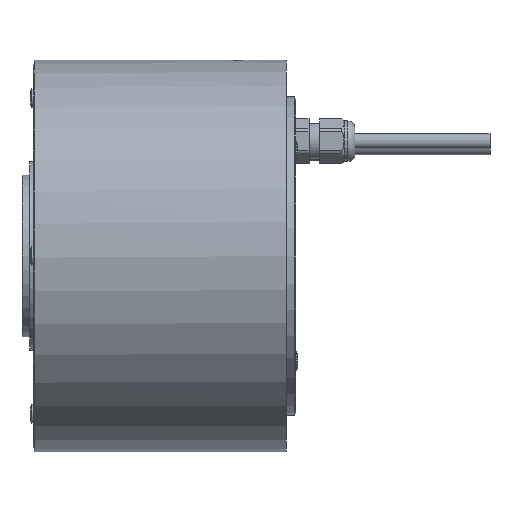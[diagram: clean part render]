
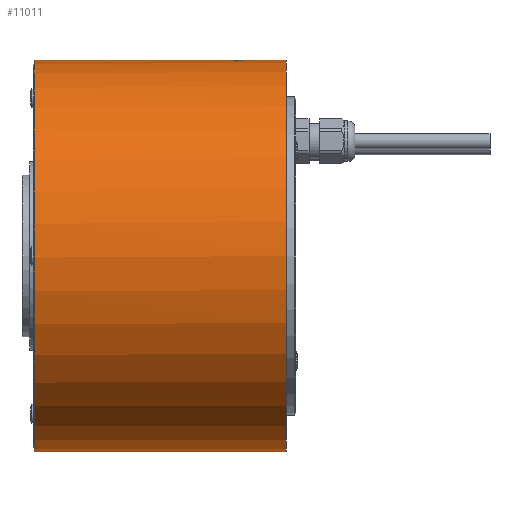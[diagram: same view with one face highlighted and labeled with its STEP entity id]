
A CAD part, left-side view. The second image highlights one B-rep face of the part: STEP entity #11011.
In plain terms, the highlighted cylindrical face has radius 72.5 mm (diameter 145 mm), a partial arc.
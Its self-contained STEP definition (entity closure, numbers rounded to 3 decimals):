
#282 = ORIENTED_EDGE ( 'NONE', *, *, #1836, .F. ) ;
#307 = CARTESIAN_POINT ( 'NONE',  ( -1.25, 0., 72.489 ) ) ;
#427 = CARTESIAN_POINT ( 'NONE',  ( 0., 0., -72.5 ) ) ;
#831 = CARTESIAN_POINT ( 'NONE',  ( -0.222, -71.8, 72.5 ) ) ;
#839 = CARTESIAN_POINT ( 'NONE',  ( -3.4, -75.424, 72.42 ) ) ;
#899 = CARTESIAN_POINT ( 'NONE',  ( 0., -0.2, 0. ) ) ;
#1114 = FACE_OUTER_BOUND ( 'NONE', #15800, .T. ) ;
#1348 = CARTESIAN_POINT ( 'NONE',  ( -1.505, -72.143, 72.485 ) ) ;
#1573 = CARTESIAN_POINT ( 'NONE',  ( -2.247, -72.638, 72.465 ) ) ;
#1836 = EDGE_CURVE ( 'NONE', #13978, #2489, #5217, .T. ) ;
#2063 = CARTESIAN_POINT ( 'NONE',  ( 0., -71.8, 72.5 ) ) ;
#2245 = CARTESIAN_POINT ( 'NONE',  ( -2.705, -77.272, 72.45 ) ) ;
#2489 = VERTEX_POINT ( 'NONE', #3333 ) ;
#2883 = DIRECTION ( 'NONE',  ( 0., 1., 0. ) ) ;
#2902 = ORIENTED_EDGE ( 'NONE', *, *, #19948, .T. ) ;
#2924 = CIRCLE ( 'NONE', #15000, 72.5 ) ;
#3090 = CARTESIAN_POINT ( 'NONE',  ( 0., -0.2, 72.5 ) ) ;
#3182 = CARTESIAN_POINT ( 'NONE',  ( -3.378, -74.755, 72.421 ) ) ;
#3333 = CARTESIAN_POINT ( 'NONE',  ( -3.4, -75.2, 72.42 ) ) ;
#3773 = EDGE_CURVE ( 'NONE', #12426, #15211, #10782, .T. ) ;
#4180 = CARTESIAN_POINT ( 'NONE',  ( -1.508, -78.255, 72.485 ) ) ;
#4237 = DIRECTION ( 'NONE',  ( 0., 0., 1. ) ) ;
#4275 = DIRECTION ( 'NONE',  ( 0., 0., -1. ) ) ;
#4809 = CARTESIAN_POINT ( 'NONE',  ( -1.703, -72.249, 72.48 ) ) ;
#5217 = B_SPLINE_CURVE_WITH_KNOTS ( 'NONE', 3,
 ( #15620, #831, #20578, #12372, #21098, #1348, #4809, #19703, #1573, #13121, #16367, #9776, #19817, #8175, #14855, #3182, #11406, #17982 ),
 .UNSPECIFIED., .F., .F.,
 ( 4, 2, 2, 2, 2, 2, 2, 2, 4 ),
 ( 0.011, 0.011, 0.012, 0.013, 0.013, 0.014, 0.015, 0.015, 0.016 ),
 .UNSPECIFIED. ) ;
#5345 = CIRCLE ( 'NONE', #16036, 72.5 ) ;
#5803 = CARTESIAN_POINT ( 'NONE',  ( -3.056, -76.707, 72.436 ) ) ;
#5845 = CARTESIAN_POINT ( 'NONE',  ( 0., -96.2, 72.5 ) ) ;
#6622 = DIRECTION ( 'NONE',  ( 0., 0., 1. ) ) ;
#7215 = CARTESIAN_POINT ( 'NONE',  ( 0., -78.6, 72.5 ) ) ;
#7435 = CARTESIAN_POINT ( 'NONE',  ( -3.378, -75.646, 72.421 ) ) ;
#7724 = CYLINDRICAL_SURFACE ( 'NONE', #10102, 72.5 ) ;
#7755 = VECTOR ( 'NONE', #7810, 1000. ) ;
#7766 = ORIENTED_EDGE ( 'NONE', *, *, #17981, .F. ) ;
#7810 = DIRECTION ( 'NONE',  ( 0., 1., 0. ) ) ;
#8011 = CARTESIAN_POINT ( 'NONE',  ( 0., -96.2, -72.5 ) ) ;
#8035 = DIRECTION ( 'NONE',  ( 0., 0., 1. ) ) ;
#8175 = CARTESIAN_POINT ( 'NONE',  ( -3.226, -74.104, 72.428 ) ) ;
#8345 = DIRECTION ( 'NONE',  ( 0., 1., 0. ) ) ;
#8407 = VECTOR ( 'NONE', #13956, 1000. ) ;
#8569 = CARTESIAN_POINT ( 'NONE',  ( -1.25, -0.2, 72.489 ) ) ;
#8839 = CARTESIAN_POINT ( 'NONE',  ( -2.248, -77.76, 72.465 ) ) ;
#8881 = LINE ( 'NONE', #5845, #8407 ) ;
#9636 = CARTESIAN_POINT ( 'NONE',  ( 0., -96.2, 0. ) ) ;
#9676 = ORIENTED_EDGE ( 'NONE', *, *, #14690, .F. ) ;
#9776 = CARTESIAN_POINT ( 'NONE',  ( -2.951, -73.497, 72.44 ) ) ;
#10102 = AXIS2_PLACEMENT_3D ( 'NONE', #9636, #16335, #8035 ) ;
#10153 = VECTOR ( 'NONE', #10991, 1000. ) ;
#10248 = CARTESIAN_POINT ( 'NONE',  ( 0., -78.6, 72.5 ) ) ;
#10695 = VERTEX_POINT ( 'NONE', #17985 ) ;
#10769 = CARTESIAN_POINT ( 'NONE',  ( -0.895, -78.51, 72.496 ) ) ;
#10782 = LINE ( 'NONE', #17573, #19775 ) ;
#10991 = DIRECTION ( 'NONE',  ( 0., 1., 0. ) ) ;
#11011 = ADVANCED_FACE ( 'NONE', ( #1114 ), #7724, .T. ) ;
#11406 = CARTESIAN_POINT ( 'NONE',  ( -3.4, -74.976, 72.42 ) ) ;
#12372 = CARTESIAN_POINT ( 'NONE',  ( -0.881, -71.909, 72.495 ) ) ;
#12378 = CARTESIAN_POINT ( 'NONE',  ( -2.951, -76.902, 72.44 ) ) ;
#12426 = VERTEX_POINT ( 'NONE', #8569 ) ;
#12444 = EDGE_CURVE ( 'NONE', #20218, #15211, #5345, .T. ) ;
#13121 = CARTESIAN_POINT ( 'NONE',  ( -2.56, -72.952, 72.455 ) ) ;
#13167 = VERTEX_POINT ( 'NONE', #10248 ) ;
#13956 = DIRECTION ( 'NONE',  ( 0., 1., 0. ) ) ;
#13978 = VERTEX_POINT ( 'NONE', #2063 ) ;
#13991 = CIRCLE ( 'NONE', #16748, 72.5 ) ;
#14017 = CARTESIAN_POINT ( 'NONE',  ( -3.292, -76.08, 72.425 ) ) ;
#14268 = EDGE_CURVE ( 'NONE', #2489, #13167, #17717, .T. ) ;
#14347 = CARTESIAN_POINT ( 'NONE',  ( 0., -96.2, 72.5 ) ) ;
#14368 = ORIENTED_EDGE ( 'NONE', *, *, #12444, .F. ) ;
#14442 = LINE ( 'NONE', #14347, #10153 ) ;
#14690 = EDGE_CURVE ( 'NONE', #12426, #16522, #2924, .T. ) ;
#14831 = CARTESIAN_POINT ( 'NONE',  ( 0., 0., 0. ) ) ;
#14855 = CARTESIAN_POINT ( 'NONE',  ( -3.292, -74.32, 72.425 ) ) ;
#15000 = AXIS2_PLACEMENT_3D ( 'NONE', #899, #19014, #4237 ) ;
#15211 = VERTEX_POINT ( 'NONE', #307 ) ;
#15422 = CARTESIAN_POINT ( 'NONE',  ( -1.706, -78.149, 72.48 ) ) ;
#15554 = EDGE_CURVE ( 'NONE', #13978, #16522, #14442, .T. ) ;
#15620 = CARTESIAN_POINT ( 'NONE',  ( 0., -71.8, 72.5 ) ) ;
#15741 = CARTESIAN_POINT ( 'NONE',  ( -0.449, -78.6, 72.5 ) ) ;
#15800 = EDGE_LOOP ( 'NONE', ( #16428, #7766, #2902, #19353, #282, #21301, #9676, #18830, #14368 ) ) ;
#16036 = AXIS2_PLACEMENT_3D ( 'NONE', #14831, #8345, #6622 ) ;
#16335 = DIRECTION ( 'NONE',  ( 0., 1., 0. ) ) ;
#16367 = CARTESIAN_POINT ( 'NONE',  ( -2.704, -73.127, 72.45 ) ) ;
#16428 = ORIENTED_EDGE ( 'NONE', *, *, #17066, .F. ) ;
#16522 = VERTEX_POINT ( 'NONE', #3090 ) ;
#16748 = AXIS2_PLACEMENT_3D ( 'NONE', #17128, #19051, #4275 ) ;
#16779 = VERTEX_POINT ( 'NONE', #20455 ) ;
#17038 = CARTESIAN_POINT ( 'NONE',  ( -3.4, -75.2, 72.42 ) ) ;
#17066 = EDGE_CURVE ( 'NONE', #10695, #20218, #21276, .T. ) ;
#17128 = CARTESIAN_POINT ( 'NONE',  ( 0., -93.2, 0. ) ) ;
#17573 = CARTESIAN_POINT ( 'NONE',  ( -1.25, -0.2, 72.489 ) ) ;
#17717 = B_SPLINE_CURVE_WITH_KNOTS ( 'NONE', 3,
 ( #17038, #839, #7435, #14017, #20585, #5803, #12378, #2245, #18965, #8839, #20362, #15422, #4180, #10769, #15741, #7215 ),
 .UNSPECIFIED., .F., .F.,
 ( 4, 2, 2, 2, 2, 2, 2, 4 ),
 ( 0.016, 0.017, 0.017, 0.018, 0.019, 0.019, 0.02, 0.021 ),
 .UNSPECIFIED. ) ;
#17981 = EDGE_CURVE ( 'NONE', #16779, #10695, #13991, .T. ) ;
#17982 = CARTESIAN_POINT ( 'NONE',  ( -3.4, -75.2, 72.42 ) ) ;
#17985 = CARTESIAN_POINT ( 'NONE',  ( 0., -93.2, -72.5 ) ) ;
#18830 = ORIENTED_EDGE ( 'NONE', *, *, #3773, .T. ) ;
#18965 = CARTESIAN_POINT ( 'NONE',  ( -2.562, -77.447, 72.455 ) ) ;
#19014 = DIRECTION ( 'NONE',  ( 0., 1., 0. ) ) ;
#19051 = DIRECTION ( 'NONE',  ( 0., -1., 0. ) ) ;
#19353 = ORIENTED_EDGE ( 'NONE', *, *, #14268, .F. ) ;
#19703 = CARTESIAN_POINT ( 'NONE',  ( -2.075, -72.498, 72.471 ) ) ;
#19775 = VECTOR ( 'NONE', #2883, 1000. ) ;
#19817 = CARTESIAN_POINT ( 'NONE',  ( -3.055, -73.692, 72.436 ) ) ;
#19948 = EDGE_CURVE ( 'NONE', #16779, #13167, #8881, .T. ) ;
#20218 = VERTEX_POINT ( 'NONE', #427 ) ;
#20362 = CARTESIAN_POINT ( 'NONE',  ( -2.077, -77.901, 72.47 ) ) ;
#20455 = CARTESIAN_POINT ( 'NONE',  ( 0., -93.2, 72.5 ) ) ;
#20578 = CARTESIAN_POINT ( 'NONE',  ( -0.443, -71.822, 72.499 ) ) ;
#20585 = CARTESIAN_POINT ( 'NONE',  ( -3.226, -76.295, 72.428 ) ) ;
#21098 = CARTESIAN_POINT ( 'NONE',  ( -1.096, -71.974, 72.492 ) ) ;
#21276 = LINE ( 'NONE', #8011, #7755 ) ;
#21301 = ORIENTED_EDGE ( 'NONE', *, *, #15554, .T. ) ;
